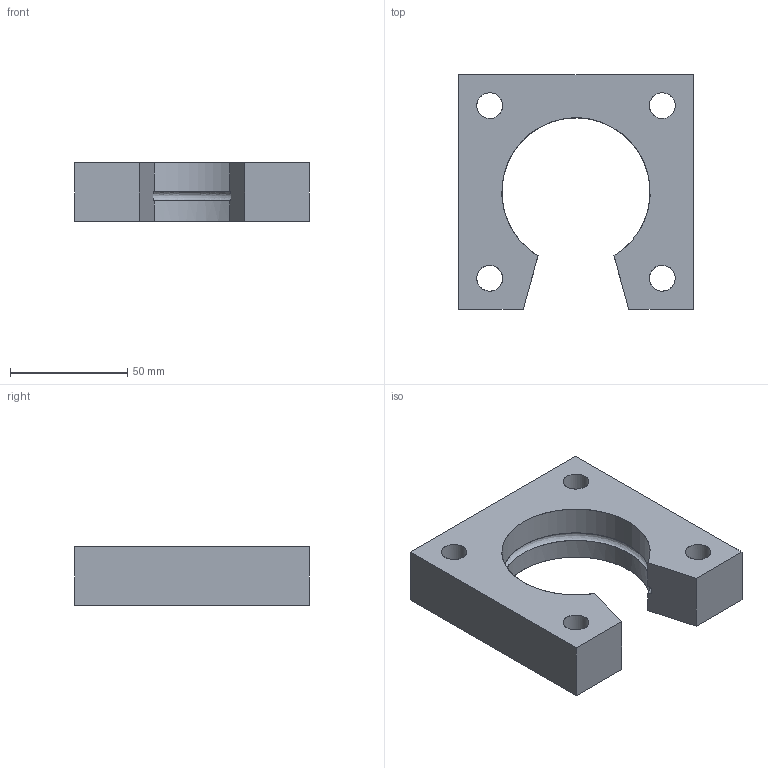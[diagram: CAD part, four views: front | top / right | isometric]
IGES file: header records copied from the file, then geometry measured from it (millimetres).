
Start section: VISI Layer Mapping Iges    VISI  0      LAYER_EMPTY  1      wwww  7      W_PD700  8      S_PD700  10     W_PD1000  11     S_PD1000  13     W_PD2000  14     S_PD2000  16     W_PD3000  17     S_PD3000  19     W_PD4000  20     S_PD4000  22     W_PD7000  23     S_PD7000  28     W_350  29     MS-350  30     MC-350  31     MP-350  32     MB-350  33     MH-350  34     MK-350  35     MPL-350  39     W_500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
Global section: file name: L:\cam_backup\钎霖前_沥府\颇况咆\mount_______\1500\MPL_R-1500.igs; native system: VISI 16.0; preprocessor: 2.0; author: 11; organization: 0; date: 500.; units: mil
Bounding box: 100 x 100 x 25 mm (x, y, z)
Surface area: 30102.6 mm2 (no closed solid volume)
Topology: 0 solids, 0 shells, 24 faces, 443 edges, 438 vertices
Faces by surface type: bspline 24
